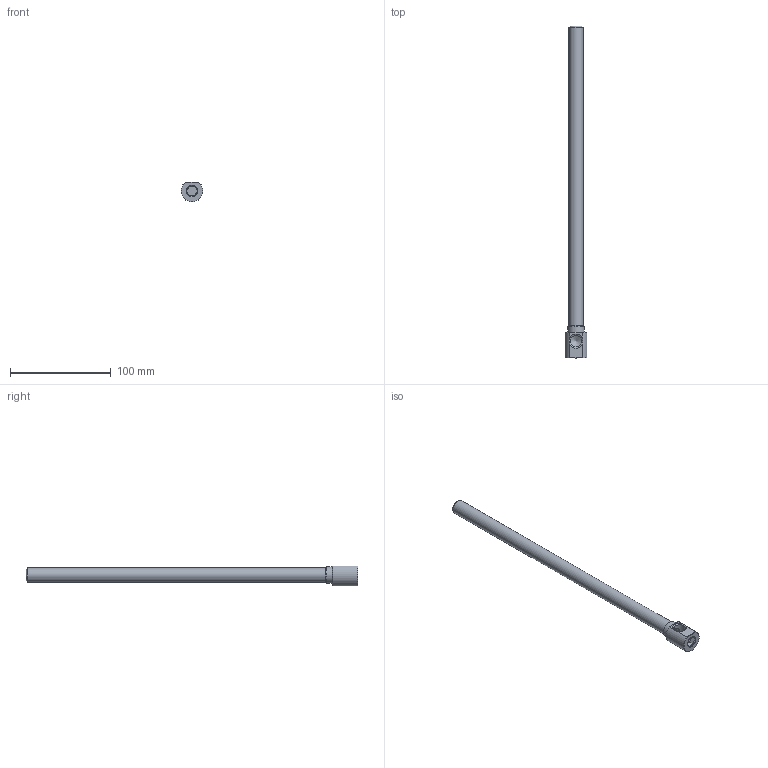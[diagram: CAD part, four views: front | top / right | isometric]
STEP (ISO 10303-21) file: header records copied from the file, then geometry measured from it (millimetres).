
FILE_DESCRIPTION(/* description */ (''),/* implementation_level */ '2;1');
FILE_NAME(/* name */ 'C:/Users/drich/Desktop/EKL14 X 13 v2.step',/* time_stamp */ '2019-11-18T14:33:54-06:00',/* author */ (''),/* organization */ (''),/* preprocessor_version */ 'ST-DEVELOPER v18',/* originating_system */ 'Autodesk Translation Framework v8.12.0.6',/* authorisation */ '');
FILE_SCHEMA (('AUTOMOTIVE_DESIGN { 1 0 10303 214 3 1 1 }'));
Length unit declared in the file: inch
Products named in the file (2): EKL14 X 13; EKL14 X 13_1
Assembly tree (1 placements, depth 2):
  EKL14 X 13
    EKL14 X 13_1
Bounding box: 21.77 x 330.2 x 19.77 mm (x, y, z)
Volume: 36460.7 mm3; surface area: 25107.8 mm2
Topology: 1 solids, 1 shells, 32 faces, 78 edges, 51 vertices
Faces by surface type: plane 16, cone 10, cylinder 6
Full cylindrical faces by diameter (mm): 8.712 x1, 11.176 x1, 11.668 x1, 14.143 x1, 16.51 x1
Entity records: 1047 total; most frequent: CARTESIAN_POINT 242, DIRECTION 159, ORIENTED_EDGE 154, EDGE_CURVE 77, AXIS2_PLACEMENT_3D 63, VERTEX_POINT 51, EDGE_LOOP 38, LINE 33
